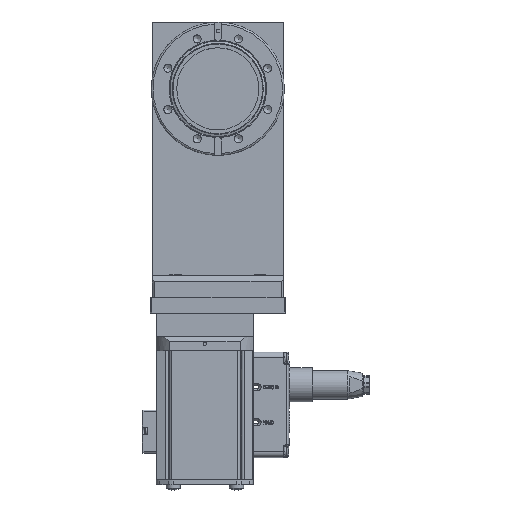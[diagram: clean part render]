
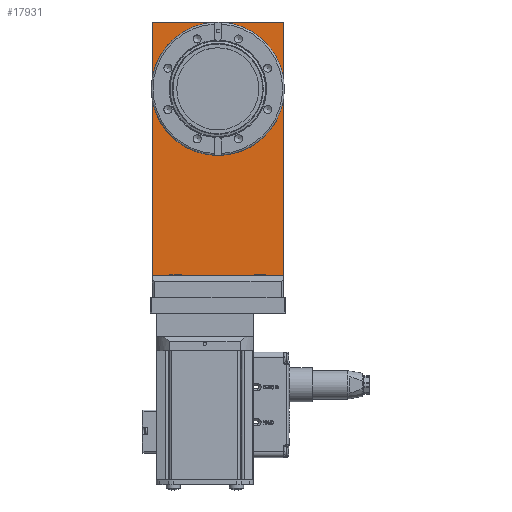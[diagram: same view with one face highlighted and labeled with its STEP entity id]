
A CAD part, top view. The second image highlights one B-rep face of the part: STEP entity #17931.
In plain terms, the highlighted planar face has unit normal (0, 0, 1).
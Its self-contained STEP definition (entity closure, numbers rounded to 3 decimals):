
#7569=LINE('',#72929,#11030);
#7574=LINE('',#72944,#11035);
#7576=LINE('',#72948,#11037);
#7579=LINE('',#72953,#11040);
#11030=VECTOR('',#56187,1.);
#11035=VECTOR('',#56194,1.);
#11037=VECTOR('',#56198,1.);
#11040=VECTOR('',#56203,1.);
#14128=PLANE('',#47244);
#17931=ADVANCED_FACE('',(#19627,#19628),#14128,.T.);
#19627=FACE_BOUND('',#22339,.T.);
#19628=FACE_BOUND('',#22340,.T.);
#22339=EDGE_LOOP('',(#31998,#31999,#32000,#32001));
#22340=EDGE_LOOP('',(#32002));
#31998=ORIENTED_EDGE('',*,*,#42480,.F.);
#31999=ORIENTED_EDGE('',*,*,#42486,.T.);
#32000=ORIENTED_EDGE('',*,*,#42491,.T.);
#32001=ORIENTED_EDGE('',*,*,#42488,.T.);
#32002=ORIENTED_EDGE('',*,*,#42493,.F.);
#37189=VERTEX_POINT('',#72928);
#37190=VERTEX_POINT('',#72930);
#37194=VERTEX_POINT('',#72943);
#37196=VERTEX_POINT('',#72949);
#37198=VERTEX_POINT('',#72958);
#42480=EDGE_CURVE('',#37189,#37190,#7569,.T.);
#42486=EDGE_CURVE('',#37189,#37194,#7574,.T.);
#42488=EDGE_CURVE('',#37196,#37190,#7576,.T.);
#42491=EDGE_CURVE('',#37194,#37196,#7579,.T.);
#42493=EDGE_CURVE('',#37198,#37198,#44313,.T.);
#44313=CIRCLE('',#47242,35.05);
#47242=AXIS2_PLACEMENT_3D('',#72957,#56208,#56209);
#47244=AXIS2_PLACEMENT_3D('',#72960,#56212,#56213);
#56187=DIRECTION('',(-1.,0.,0.));
#56194=DIRECTION('',(0.,1.,0.));
#56198=DIRECTION('',(0.,-1.,0.));
#56203=DIRECTION('',(-1.,0.,0.));
#56208=DIRECTION('',(0.,0.,1.));
#56209=DIRECTION('',(1.,0.,0.));
#56212=DIRECTION('',(0.,0.,1.));
#56213=DIRECTION('',(1.,0.,0.));
#72928=CARTESIAN_POINT('',(56.,-177.8,26.975));
#72929=CARTESIAN_POINT('',(0.,-177.8,26.975));
#72930=CARTESIAN_POINT('',(-56.,-177.8,26.975));
#72943=CARTESIAN_POINT('',(56.,57.05,26.975));
#72944=CARTESIAN_POINT('',(56.,-179.1,26.975));
#72948=CARTESIAN_POINT('',(-56.,57.05,26.975));
#72949=CARTESIAN_POINT('',(-56.,57.05,26.975));
#72953=CARTESIAN_POINT('',(56.,57.05,26.975));
#72957=CARTESIAN_POINT('',(0.,0.,26.975));
#72958=CARTESIAN_POINT('',(35.05,0.,26.975));
#72960=CARTESIAN_POINT('',(0.,0.,26.975));
